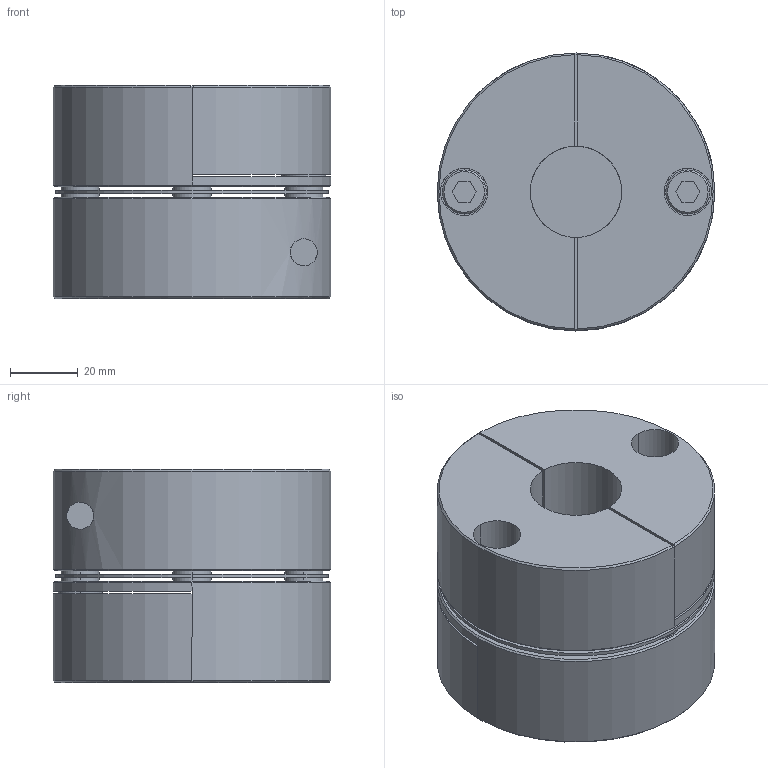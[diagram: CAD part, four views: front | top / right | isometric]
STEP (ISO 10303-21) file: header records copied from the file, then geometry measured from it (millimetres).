
FILE_DESCRIPTION (( 'STEP AP203' ), '1' );
FILE_NAME ('SHS82C.STEP', '2009-09-30T15:29:07', ( 'USER' ), ( 'HOME' ), 'SwSTEP 2.0', 'SolidWorks 2007', '' );
FILE_SCHEMA (( 'CONFIG_CONTROL_DESIGN' ));
Length unit declared in the file: millimetre
Products named in the file (3): SHS82C(右)_預設; SHS82C_預設; SHS82C
Assembly tree (3 placements, depth 2):
  SHS82C
    SHS82C(右)_預設  x2
    SHS82C_預設
Bounding box: 82 x 82 x 63 mm (x, y, z)
Volume: 260298.7 mm3; surface area: 73526.4 mm2
Topology: 3 solids, 3 shells, 174 faces, 422 edges, 272 vertices
Faces by surface type: plane 88, cylinder 66, cone 20
Entity records: 4117 total; most frequent: CARTESIAN_POINT 807, DIRECTION 648, ORIENTED_EDGE 588, EDGE_CURVE 294, AXIS2_PLACEMENT_3D 235, VERTEX_POINT 190, VECTOR 178, LINE 178
